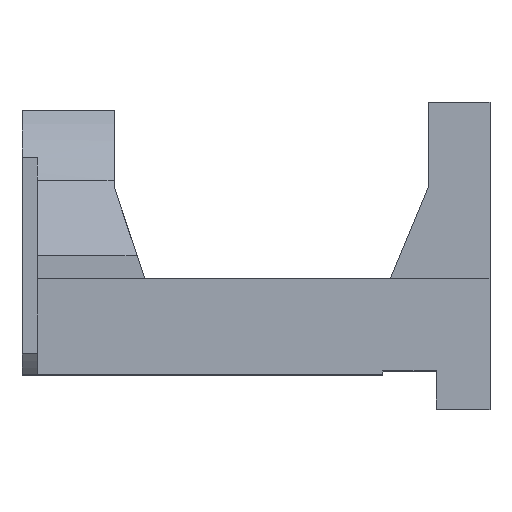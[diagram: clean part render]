
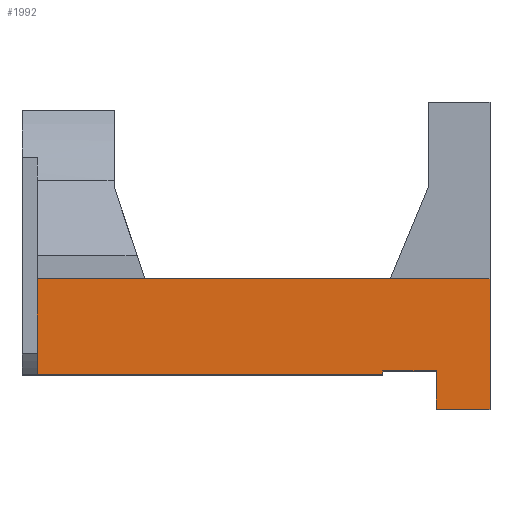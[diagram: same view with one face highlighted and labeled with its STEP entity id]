
A CAD part, top view. The second image highlights one B-rep face of the part: STEP entity #1992.
In plain terms, the highlighted planar face has unit normal (0, 0, 1).
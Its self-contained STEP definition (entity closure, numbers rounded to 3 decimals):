
#1 = DIRECTION ( 'NONE',  ( 0., -1., 0. ) ) ;
#17 = CARTESIAN_POINT ( 'NONE',  ( -59., -17., 26. ) ) ;
#85 = EDGE_CURVE ( 'NONE', #1769, #1282, #2526, .T. ) ;
#98 = LINE ( 'NONE', #1925, #3762 ) ;
#327 = DIRECTION ( 'NONE',  ( -1., 0., 0. ) ) ;
#329 = ORIENTED_EDGE ( 'NONE', *, *, #1056, .T. ) ;
#334 = ORIENTED_EDGE ( 'NONE', *, *, #1336, .T. ) ;
#343 = DIRECTION ( 'NONE',  ( 1., 0., 0. ) ) ;
#357 = CARTESIAN_POINT ( 'NONE',  ( -63.819, -15.5, 26. ) ) ;
#403 = CARTESIAN_POINT ( 'NONE',  ( -59., -15., 26. ) ) ;
#424 = EDGE_LOOP ( 'NONE', ( #1108, #550, #3061, #2616, #334, #654, #923, #329 ) ) ;
#449 = VERTEX_POINT ( 'NONE', #1621 ) ;
#550 = ORIENTED_EDGE ( 'NONE', *, *, #875, .F. ) ;
#637 = CARTESIAN_POINT ( 'NONE',  ( -7., -20., 26. ) ) ;
#639 = LINE ( 'NONE', #2875, #3645 ) ;
#654 = ORIENTED_EDGE ( 'NONE', *, *, #85, .T. ) ;
#750 = VECTOR ( 'NONE', #2996, 1000. ) ;
#875 = EDGE_CURVE ( 'NONE', #3522, #449, #1767, .T. ) ;
#917 = VECTOR ( 'NONE', #2277, 1000. ) ;
#923 = ORIENTED_EDGE ( 'NONE', *, *, #1304, .T. ) ;
#1010 = CARTESIAN_POINT ( 'NONE',  ( -59., -3., 26. ) ) ;
#1056 = EDGE_CURVE ( 'NONE', #2219, #3411, #1872, .T. ) ;
#1070 = EDGE_CURVE ( 'NONE', #3522, #1965, #98, .T. ) ;
#1108 = ORIENTED_EDGE ( 'NONE', *, *, #2586, .T. ) ;
#1145 = VECTOR ( 'NONE', #2095, 1000. ) ;
#1185 = EDGE_CURVE ( 'NONE', #1965, #3172, #2084, .T. ) ;
#1282 = VERTEX_POINT ( 'NONE', #3253 ) ;
#1291 = CARTESIAN_POINT ( 'NONE',  ( 0., -3., 26. ) ) ;
#1304 = EDGE_CURVE ( 'NONE', #1282, #2219, #2463, .T. ) ;
#1308 = VECTOR ( 'NONE', #343, 1000. ) ;
#1336 = EDGE_CURVE ( 'NONE', #3172, #1769, #639, .T. ) ;
#1621 = CARTESIAN_POINT ( 'NONE',  ( -59., -15.5, 26. ) ) ;
#1767 = LINE ( 'NONE', #357, #3263 ) ;
#1769 = VERTEX_POINT ( 'NONE', #637 ) ;
#1872 = LINE ( 'NONE', #2126, #1145 ) ;
#1896 = DIRECTION ( 'NONE',  ( 0., 1., 0. ) ) ;
#1925 = CARTESIAN_POINT ( 'NONE',  ( -14., -3., 26. ) ) ;
#1965 = VERTEX_POINT ( 'NONE', #3454 ) ;
#1992 = ADVANCED_FACE ( 'NONE', ( #2664 ), #3530, .F. ) ;
#2084 = LINE ( 'NONE', #403, #1308 ) ;
#2095 = DIRECTION ( 'NONE',  ( -1., 0., 0. ) ) ;
#2126 = CARTESIAN_POINT ( 'NONE',  ( -59., -3., 26. ) ) ;
#2219 = VERTEX_POINT ( 'NONE', #1291 ) ;
#2246 = CARTESIAN_POINT ( 'NONE',  ( 0., -20., 26. ) ) ;
#2277 = DIRECTION ( 'NONE',  ( 1., 0., 0. ) ) ;
#2463 = LINE ( 'NONE', #3017, #750 ) ;
#2526 = LINE ( 'NONE', #2246, #917 ) ;
#2537 = CARTESIAN_POINT ( 'NONE',  ( -7., -15., 26. ) ) ;
#2586 = EDGE_CURVE ( 'NONE', #3411, #449, #2926, .T. ) ;
#2616 = ORIENTED_EDGE ( 'NONE', *, *, #1185, .T. ) ;
#2664 = FACE_OUTER_BOUND ( 'NONE', #424, .T. ) ;
#2875 = CARTESIAN_POINT ( 'NONE',  ( -7., -3., 26. ) ) ;
#2908 = DIRECTION ( 'NONE',  ( 0., -1., 0. ) ) ;
#2926 = LINE ( 'NONE', #17, #3534 ) ;
#2996 = DIRECTION ( 'NONE',  ( 0., 1., 0. ) ) ;
#3017 = CARTESIAN_POINT ( 'NONE',  ( 0., -20., 26. ) ) ;
#3061 = ORIENTED_EDGE ( 'NONE', *, *, #1070, .T. ) ;
#3071 = CARTESIAN_POINT ( 'NONE',  ( -14., -15.5, 26. ) ) ;
#3172 = VERTEX_POINT ( 'NONE', #2537 ) ;
#3253 = CARTESIAN_POINT ( 'NONE',  ( 0., -20., 26. ) ) ;
#3263 = VECTOR ( 'NONE', #327, 1000. ) ;
#3411 = VERTEX_POINT ( 'NONE', #1010 ) ;
#3443 = AXIS2_PLACEMENT_3D ( 'NONE', #3490, #3556, #3570 ) ;
#3454 = CARTESIAN_POINT ( 'NONE',  ( -14., -15., 26. ) ) ;
#3490 = CARTESIAN_POINT ( 'NONE',  ( -59., -3., 26. ) ) ;
#3522 = VERTEX_POINT ( 'NONE', #3071 ) ;
#3530 = PLANE ( 'NONE',  #3443 ) ;
#3534 = VECTOR ( 'NONE', #1, 1000. ) ;
#3556 = DIRECTION ( 'NONE',  ( 0., 0., -1. ) ) ;
#3570 = DIRECTION ( 'NONE',  ( -1., 0., 0. ) ) ;
#3645 = VECTOR ( 'NONE', #2908, 1000. ) ;
#3762 = VECTOR ( 'NONE', #1896, 1000. ) ;
